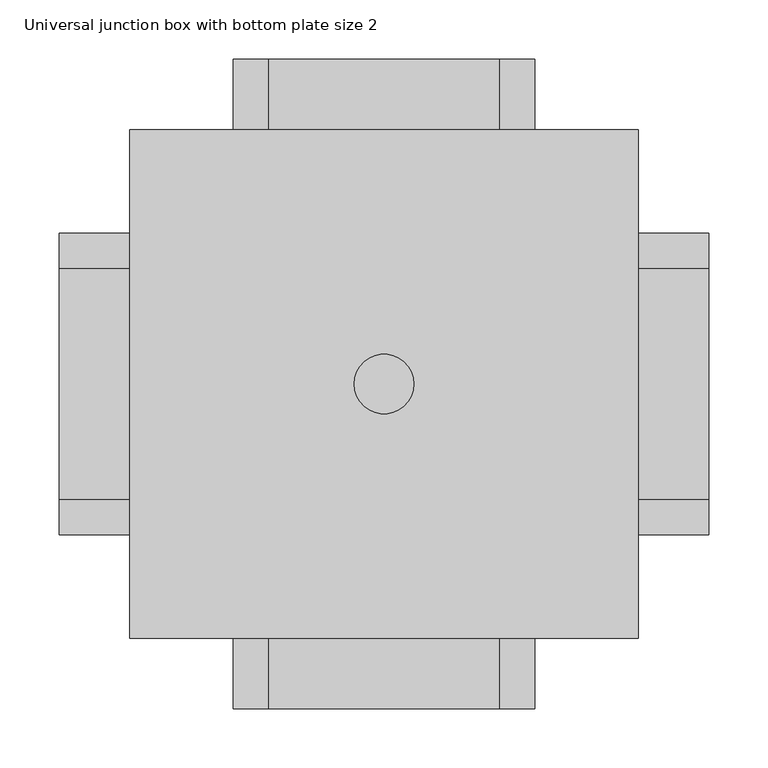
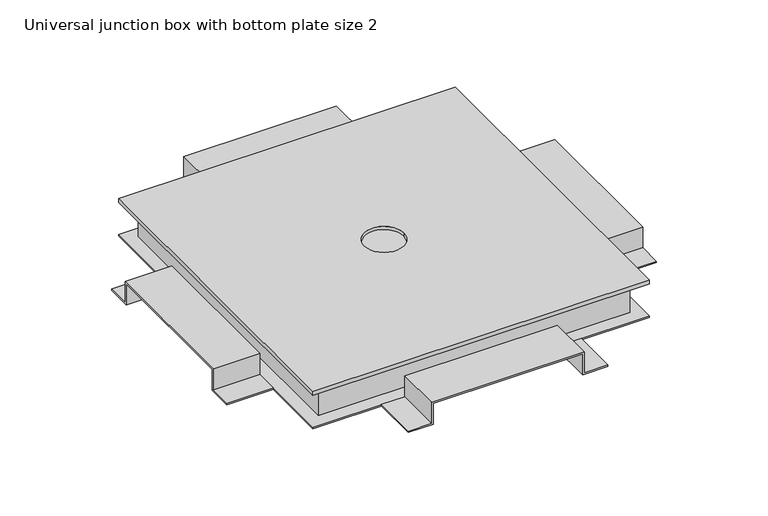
"""IFC4 building model written with IfcOpenShell, lengths in millimetres: cable carrier fitting geometry, Electrical-Installations_Hager_Universal-Junction-Box-With-Bottom-Plate-Size-2 : Universal junction box with bottom plate size 2."""

from ifc_helpers import new_model, si_unit, frame, origin, place, context, project, spatial, polyline, circle_curve, outline, extrude, faceted_brep, source, transform, mapped, element, save
from ifc_brep_helpers import plane_surface, revolved_surface, advanced_brep


def universal_junction_box_with_bottom_plate_size_2_fdcef50c(model_context):
    return source(origin(), model_context, "Body", "SolidModel", [
        extrude(outline(polyline([(-14.0, -127.0), (-14.0, -95.0), (14.0, -95.0), (14.0, 95.0), (-14.0, 95.0), (-14.0, 127.0), (-12.0, 127.0), (-12.0, 97.0), (16.0, 97.0), (16.0, -97.0), (-12.0, -97.0), (-12.0, -127.0), (-14.0, -127.0)])), frame((0.0, 214.0, 0.0), z_axis=(0.0, 1.0, 0.0), x_axis=(0.0, 0.0, 1.0)), (0.0, 0.0, 1.0), 59.0),
        extrude(outline(polyline([(-127.0, -14.0), (-127.0, -12.0), (-97.0, -12.0), (-97.0, 16.0), (97.0, 16.0), (97.0, -12.0), (127.0, -12.0), (127.0, -14.0), (95.0, -14.0), (95.0, 14.0), (-95.0, 14.0), (-95.0, -14.0), (-127.0, -14.0)])), frame((-273.0, 0.0, 0.0), z_axis=(1.0, 0.0, 0.0), x_axis=(0.0, 1.0, 0.0)), (0.0, 0.0, 1.0), 59.0),
        extrude(outline(polyline([(-14.0, -127.0), (-14.0, -95.0), (14.0, -95.0), (14.0, 95.0), (-14.0, 95.0), (-14.0, 127.0), (-12.0, 127.0), (-12.0, 97.0), (16.0, 97.0), (16.0, -97.0), (-12.0, -97.0), (-12.0, -127.0), (-14.0, -127.0)])), frame((0.0, -273.0, 0.0), z_axis=(0.0, 1.0, 0.0), x_axis=(0.0, 0.0, 1.0)), (0.0, 0.0, 1.0), 59.0),
        extrude(outline(polyline([(-127.0, -14.0), (-127.0, -12.0), (-97.0, -12.0), (-97.0, 16.0), (97.0, 16.0), (97.0, -12.0), (127.0, -12.0), (127.0, -14.0), (95.0, -14.0), (95.0, 14.0), (-95.0, 14.0), (-95.0, -14.0), (-127.0, -14.0)])), frame((214.0, 0.0, 0.0), z_axis=(1.0, 0.0, 0.0), x_axis=(0.0, 1.0, 0.0)), (0.0, 0.0, 1.0), 59.0),
        advanced_brep(
        [(-214.0, -214.0, 36.0), (214.0, -214.0, 36.0), (214.0, 214.0, 36.0), (-214.0, 214.0, 36.0), (-25.0, 0.0, 36.0), (25.0, 0.0, 36.0), (-214.0, -214.0, 31.0), (-214.0, 214.0, 31.0), (214.0, 214.0, 31.0), (214.0, -214.0, 31.0), (192.0, 192.0, 31.0), (-192.0, 192.0, 31.0), (-192.0, -192.0, 31.0), (192.0, -192.0, 31.0), (-25.0, 0.0, 31.7820613), (25.0, 0.0, 31.7820613), (192.0, 192.0, 31.7820613), (192.0, -192.0, 31.7820613), (-192.0, -192.0, 31.7820613), (-192.0, 192.0, 31.7820613)],
        [
            (0, 1),
            (1, 2),
            (2, 3),
            (3, 0),
            (4, 5, circle_curve(frame((0.0, 0.0, 36.0), z_axis=(0.0, 0.0, -1.0), x_axis=(1.0, 0.0, 0.0)), 25.0)),
            (5, 4, circle_curve(frame((0.0, 0.0, 36.0), z_axis=(0.0, 0.0, -1.0), x_axis=(1.0, 0.0, 0.0)), 25.0)),
            (6, 7),
            (7, 8),
            (8, 9),
            (9, 6),
            (10, 11),
            (11, 12),
            (12, 13),
            (13, 10),
            (0, 6),
            (9, 1),
            (8, 2),
            (7, 3),
            (4, 14),
            (14, 15, circle_curve(frame((0.0, 0.0, 31.7820613), z_axis=(0.0, 0.0, -1.0), x_axis=(1.0, 0.0, 0.0)), 25.0)),
            (15, 5),
            (15, 14, circle_curve(frame((0.0, 0.0, 31.7820613), z_axis=(0.0, 0.0, -1.0), x_axis=(1.0, 0.0, 0.0)), 25.0)),
            (16, 17),
            (17, 18),
            (18, 19),
            (19, 16),
            (19, 11),
            (10, 16),
            (18, 12),
            (17, 13),
        ],
        [
            plane_surface(frame((-208.0, -214.0, 36.0), z_axis=(0.0, 0.0, 1.0), x_axis=(1.0, 0.0, 0.0))),
            plane_surface(frame((-208.0, -214.0, 31.0), z_axis=(0.0, 0.0, -1.0), x_axis=(-1.0, 0.0, 0.0))),
            plane_surface(frame((-214.0, -214.0, 36.0), z_axis=(0.0, -1.0, 0.0), x_axis=(0.0, 0.0, -1.0))),
            plane_surface(frame((214.0, -214.0, 36.0), z_axis=(1.0, 0.0, 0.0), x_axis=(0.0, 0.0, -1.0))),
            plane_surface(frame((214.0, 214.0, 36.0), z_axis=(0.0, 1.0, 0.0), x_axis=(0.0, 0.0, -1.0))),
            plane_surface(frame((-214.0, 214.0, 36.0), z_axis=(-1.0, 0.0, 0.0), x_axis=(0.0, 0.0, -1.0))),
            revolved_surface(polyline([(25.0, 0.0, 31.7820613), (25.0, 0.0, 36.0)]), (0.0, 0.0, 0.0), (0.0, 0.0, -1.0)),
            plane_surface(frame((-117.5, 192.0, 31.7820613), z_axis=(0.0, 0.0, -1.0), x_axis=(-1.0, 0.0, 0.0))),
            plane_surface(frame((192.0, 192.0, 31.7820613), z_axis=(0.0, -1.0, 0.0), x_axis=(0.0, 0.0, -1.0))),
            plane_surface(frame((-192.0, 192.0, 31.7820613), z_axis=(1.0, 0.0, 0.0), x_axis=(0.0, 0.0, -1.0))),
            plane_surface(frame((-192.0, -192.0, 31.7820613), z_axis=(0.0, 1.0, 0.0), x_axis=(0.0, 0.0, -1.0))),
            plane_surface(frame((192.0, -192.0, 31.7820613), z_axis=(-1.0, 0.0, 0.0), x_axis=(0.0, 0.0, -1.0))),
        ],
        [
            (0, [[1, 2, 3, 4], [5, 6]]),
            (1, [[7, 8, 9, 10], [11, 12, 13, 14]]),
            (2, [[-1, 15, -10, 16]]),
            (3, [[-2, -16, -9, 17]]),
            (4, [[-3, -17, -8, 18]]),
            (5, [[-4, -18, -7, -15]]),
            (6, [[-5, 19, 20, 21]]),
            (6, [[-6, -21, 22, -19]]),
            (7, [[23, 24, 25, 26], [-20, -22]]),
            (8, [[-26, 27, -11, 28]]),
            (9, [[-25, 29, -12, -27]]),
            (10, [[-24, 30, -13, -29]]),
            (11, [[-23, -28, -14, -30]]),
        ],
    ),
        extrude(outline(polyline([(214.0, 214.0), (214.0, -214.0), (-214.0, -214.0), (-214.0, 214.0), (214.0, 214.0)])), frame((0.0, 0.0, -14.0), z_axis=(0.0, 0.0, 1.0), x_axis=(1.0, 0.0, 0.0)), (0.0, 0.0, 1.0), 2.0),
        faceted_brep([(-198.0, 198.0, 31.0), (-198.0, -198.0, 31.0), (198.0, -198.0, 31.0), (198.0, 198.0, 31.0), (-192.0, 192.0, 31.0), (192.0, 192.0, 31.0), (192.0, -192.0, 31.0), (-192.0, -192.0, 31.0), (-198.0, 198.0, -14.0), (198.0, 198.0, -14.0), (198.0, -198.0, -14.0), (-198.0, -198.0, -14.0), (192.0, 192.0, -6.1362798), (-192.0, 192.0, -6.1362798), (-192.0, -192.0, -6.1362798), (192.0, -192.0, -6.1362798)], [[[0, 1, 2, 3], [4, 5, 6, 7]], [[8, 9, 10, 11]], [[1, 0, 8, 11]], [[2, 1, 11, 10]], [[3, 2, 10, 9]], [[0, 3, 9, 8]], [[12, 13, 14, 15]], [[13, 12, 5, 4]], [[14, 13, 4, 7]], [[15, 14, 7, 6]], [[12, 15, 6, 5]]]),
    ])


if __name__ == "__main__":
    model = new_model("IFC4")
    model_context = context("Model", 3, world=origin())
    ifc_project = project(units=[si_unit("LENGTHUNIT", "METRE", prefix="MILLI")], contexts=[model_context])
    site = spatial("IfcSite", under=ifc_project)
    building = spatial("IfcBuilding", under=site)
    placement = place(None, origin())
    universal_junction_box_with_bottom_plate_size_2_shape = universal_junction_box_with_bottom_plate_size_2_fdcef50c(model_context)
    element("IfcCableCarrierFitting", 1, ObjectType="Electrical-Installations_Hager_Universal-Junction-Box-With-Bottom-Plate-Size-2 : Universal junction box with bottom plate size 2", at=placement, inside=building, context=model_context, shape_type="MappedRepresentation", body=[
        mapped(universal_junction_box_with_bottom_plate_size_2_shape, transform((0.0, 0.0, 0.0), x_axis=(1.0, 0.0, 0.0), y_axis=(0.0, 1.0, 0.0), z_axis=(0.0, 0.0, 1.0))),
    ])
    save(model, "model.ifc")
